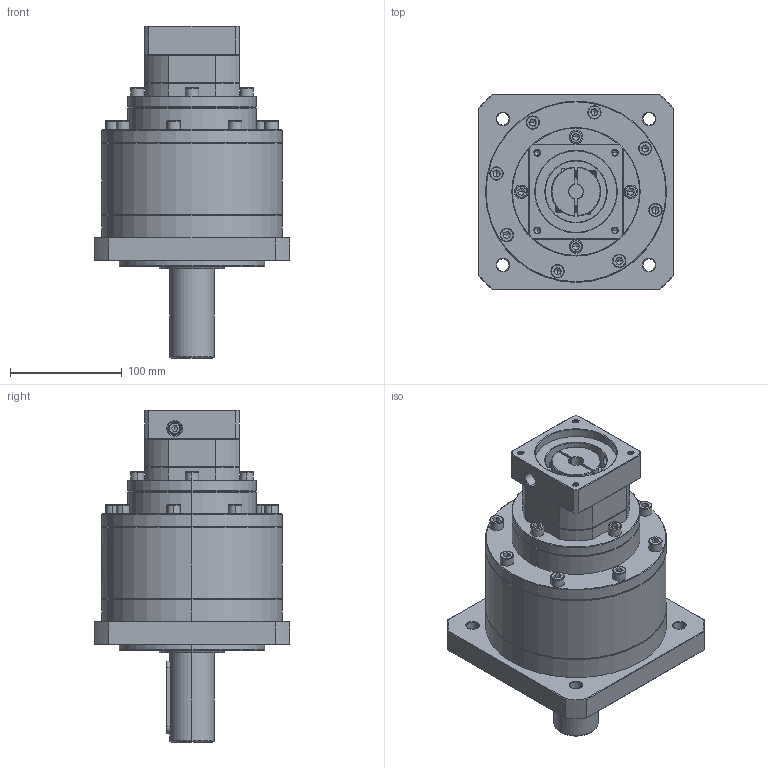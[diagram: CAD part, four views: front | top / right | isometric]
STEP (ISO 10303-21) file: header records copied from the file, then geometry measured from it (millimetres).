
FILE_DESCRIPTION (( 'STEP AP214' ), '1' );
FILE_NAME ('ZF160A-D40-L3-P2-12.7-73-69.6X69.6-M6.step', '2023-09-03T08:14:43', ( '' ), ( '' ), 'SwSTEP 2.0', 'SolidWorks 2016', '' );
FILE_SCHEMA (( 'AUTOMOTIVE_DESIGN' ));
Length unit declared in the file: millimetre
Products named in the file (1): ZF160A-D40-L3-P2-12.7-73-69.6X69.6-M6
Bounding box: 175 x 175 x 297.2 mm (x, y, z)
Volume: 3406385 mm3; surface area: 227614.8 mm2
Topology: 5 solids, 6 shells, 2416 faces, 6383 edges, 4088 vertices
Faces by surface type: plane 1145, cylinder 467, bspline 397, cone 346, torus 61
Entity records: 129907 total; most frequent: CARTESIAN_POINT 48686, ORIENTED_EDGE 12658, DIRECTION 9629, EDGE_CURVE 6329, VERTEX_POINT 4088, LINE 3381, VECTOR 3381, AXIS2_PLACEMENT_3D 3124
